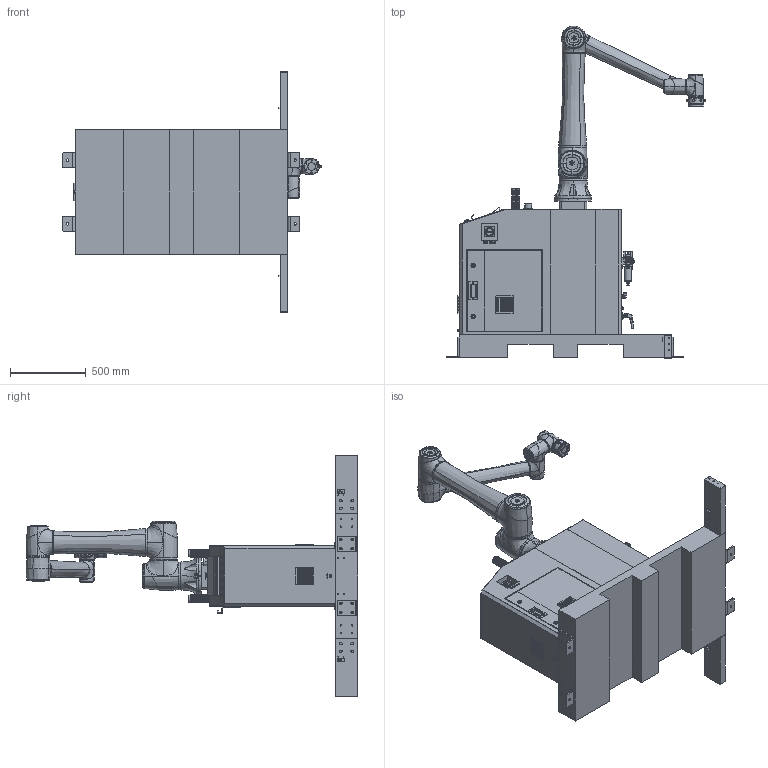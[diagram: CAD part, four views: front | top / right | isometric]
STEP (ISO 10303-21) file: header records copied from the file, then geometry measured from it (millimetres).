
FILE_DESCRIPTION (( 'STEP AP214' ), '1' );
FILE_NAME ('1300000798-CR20A立柱式码垛工作站V2（海外版）.STEP', '2025-11-28T02:59:02', ( '' ), ( '' ), 'SwSTEP 2.0', 'SolidWorks 2020', '' );
FILE_SCHEMA (( 'AUTOMOTIVE_DESIGN' ));
Length unit declared in the file: millimetre
Products named in the file (1): 1300000798-CR20A立柱式码垛工作站V2（海外版）
Bounding box: 1698.75 x 2183.93 x 1580 mm (x, y, z)
Surface area: 9752612.3 mm2 (no closed solid volume)
Topology: 0 solids, 330 shells, 2025 faces, 11591 edges, 9715 vertices
Faces by surface type: plane 715, cylinder 547, torus 370, bspline 308, cone 77, sphere 8
Entity records: 207040 total; most frequent: CARTESIAN_POINT 101053, DIRECTION 15776, ORIENTED_EDGE 14748, EDGE_CURVE 11579, VERTEX_POINT 9715, AXIS2_PLACEMENT_3D 5473, LINE 4830, VECTOR 4830
